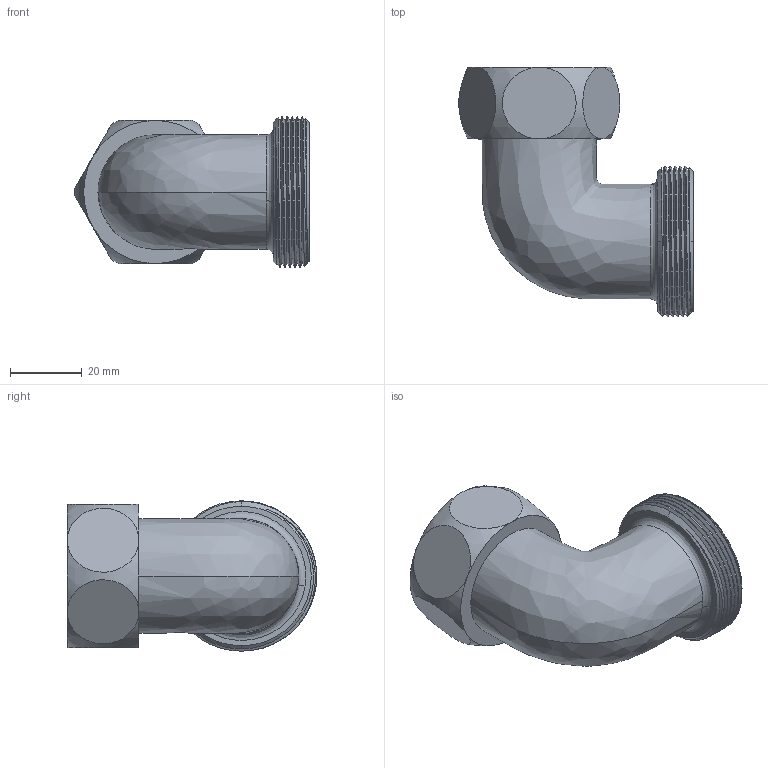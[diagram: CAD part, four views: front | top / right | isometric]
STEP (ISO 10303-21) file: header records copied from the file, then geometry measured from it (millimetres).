
FILE_DESCRIPTION (( 'STEP AP203' ), '1' );
FILE_NAME ('1x114.STEP', '2012-07-02T23:23:23', ( 'Administrators' ), ( 'JUJUMAO' ), 'SwSTEP 2.0', 'SolidWorks 2008', '' );
FILE_SCHEMA (( 'CONFIG_CONTROL_DESIGN' ));
Length unit declared in the file: millimetre
Products named in the file (1): 1x114
Bounding box: 65.47 x 69.69 x 42 mm (x, y, z)
Volume: 33627.5 mm3; surface area: 21051.2 mm2
Topology: 1 solids, 1 shells, 71 faces, 182 edges, 117 vertices
Faces by surface type: cylinder 34, plane 12, bspline 10, cone 9, torus 6
Entity records: 6507 total; most frequent: CARTESIAN_POINT 4991, ORIENTED_EDGE 364, DIRECTION 229, EDGE_CURVE 182, VERTEX_POINT 117, AXIS2_PLACEMENT_3D 94, EDGE_LOOP 77, ADVANCED_FACE 71
